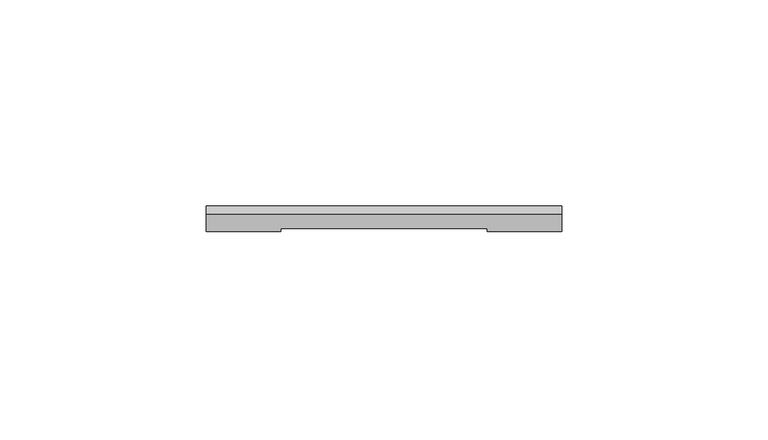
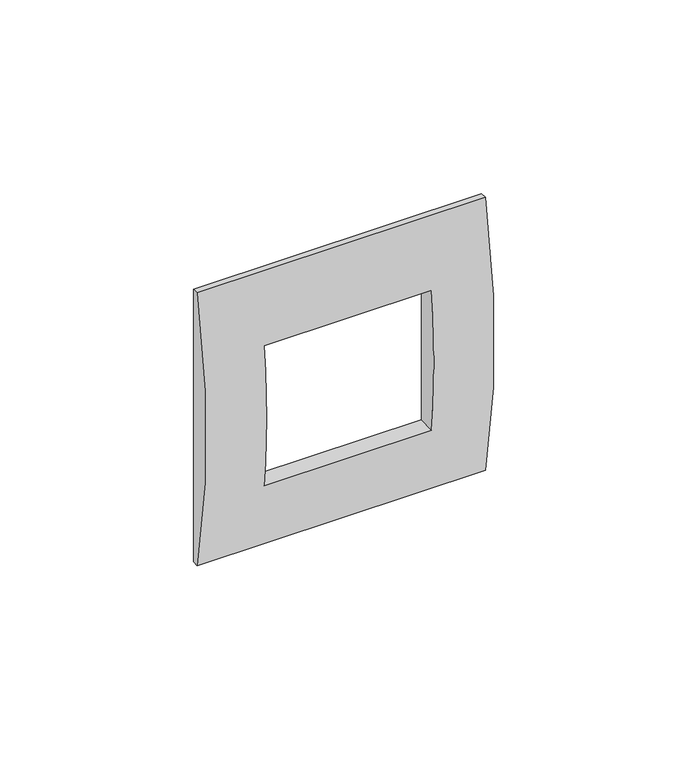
"""IFC4 building model written with IfcOpenShell, lengths in millimetres: proxy geometry, КНС_КаркасыВСбореСРамкамиViva_ILF_DKC : 2 модуля."""

from ifc_helpers import new_model, si_unit, frame, origin, place, context, project, spatial, circle_curve, source, transform, mapped, element, save
from ifc_brep_helpers import plane_surface, cylinder_surface, advanced_brep


def electrical_fixtures_e3511963(model_context):
    return source(origin(), model_context, "Body", "AdvancedBrep", [
        advanced_brep(
        [(43.0, -2.0, 43.0), (43.0, -2.0, -43.0), (43.0, 0.0, -43.0), (43.0, 0.0, 43.0), (-43.0, -2.0, 43.0), (-43.0, 0.0, 43.0), (-43.0, 0.0, -43.0), (-43.0, -2.0, -43.0), (25.0, -5.4051386, 22.0231857), (25.0, -5.4051386, -22.0231857), (-25.0, -5.4051386, -22.0231857), (-25.0, -5.4051386, 22.0231857), (25.0, 0.0, 22.0231857), (25.0, 0.0, -22.0231857), (-25.0, 0.0, -22.0231857), (-25.0, 0.0, 22.0231857)],
        [
            (0, 1, circle_curve(frame((43.0, 196.5799224, 0.0), z_axis=(1.0, 0.0, 0.0), x_axis=(0.0, 1.0, 0.0)), 203.1821487)),
            (1, 2),
            (2, 3),
            (3, 0),
            (4, 5),
            (5, 6),
            (6, 7),
            (7, 4, circle_curve(frame((-43.0, 196.5799224, 0.0), z_axis=(-1.0, 0.0, 0.0), x_axis=(0.0, 1.0, 0.0)), 203.1821487)),
            (0, 4),
            (7, 1),
            (8, 9, circle_curve(frame((25.0, 196.5799224, 0.0), z_axis=(1.0, 0.0, 0.0), x_axis=(0.0, 1.0, 0.0)), 203.1821487)),
            (9, 10),
            (10, 11, circle_curve(frame((-25.0, 196.5799224, 0.0), z_axis=(-1.0, 0.0, 0.0), x_axis=(0.0, 1.0, 0.0)), 203.1821487)),
            (11, 8),
            (6, 2),
            (3, 5),
            (8, 12),
            (12, 13),
            (13, 9),
            (10, 14),
            (14, 15),
            (15, 11),
            (15, 12),
            (13, 14),
        ],
        [
            plane_surface(frame((43.0, 399.7620711, 0.0), z_axis=(1.0, 0.0, 0.0), x_axis=(0.0, 0.0, 1.0))),
            plane_surface(frame((-43.0, 399.7620711, 0.0), z_axis=(-1.0, 0.0, 0.0), x_axis=(0.0, 0.0, -1.0))),
            cylinder_surface(frame((-43.0, 196.5799224, 0.0), z_axis=(1.0, 0.0, 0.0), x_axis=(0.0, 1.0, 0.0)), 203.1821487),
            plane_surface(frame((43.0, -2.0, -43.0), z_axis=(0.0, 0.0, -1.0), x_axis=(-1.0, 0.0, 0.0))),
            plane_surface(frame((43.0, 0.0, 43.0), z_axis=(0.0, 0.0, 1.0), x_axis=(-1.0, 0.0, 0.0))),
            plane_surface(frame((25.0, 399.7620711, 0.0), z_axis=(-1.0, 0.0, 0.0), x_axis=(0.0, 0.0, 1.0))),
            plane_surface(frame((-25.0, 399.7620711, 0.0), z_axis=(1.0, 0.0, 0.0), x_axis=(0.0, 0.0, -1.0))),
            plane_surface(frame((25.0, 0.0, 22.0231857), z_axis=(0.0, 0.0, -1.0), x_axis=(-1.0, 0.0, 0.0))),
            plane_surface(frame((25.0, -5.4051386, -22.0231857), z_axis=(0.0, 0.0, 1.0), x_axis=(-1.0, 0.0, 0.0))),
            plane_surface(frame((43.0, 0.0, -43.0), z_axis=(0.0, 1.0, 0.0), x_axis=(-1.0, 0.0, 0.0))),
        ],
        [
            (0, [[1, 2, 3, 4]]),
            (1, [[5, 6, 7, 8]]),
            (2, [[-1, 9, -8, 10], [11, 12, 13, 14]]),
            (3, [[-2, -10, -7, 15]]),
            (4, [[-4, 16, -5, -9]]),
            (5, [[17, 18, 19, -11]]),
            (6, [[20, 21, 22, -13]]),
            (7, [[-17, -14, -22, 23]]),
            (8, [[-19, 24, -20, -12]]),
            (9, [[-3, -15, -6, -16], [-18, -23, -21, -24]]),
        ],
    ),
    ])


if __name__ == "__main__":
    model = new_model("IFC4")
    model_context = context("Model", 3, world=origin())
    ifc_project = project(units=[si_unit("LENGTHUNIT", "METRE", prefix="MILLI")], contexts=[model_context])
    site = spatial("IfcSite", under=ifc_project)
    building = spatial("IfcBuilding", under=site)
    placement = place(None, origin())
    electrical_fixtures_shape = electrical_fixtures_e3511963(model_context)
    element("IfcBuildingElementProxy", 1, Name="КНС_КаркасыВСбореСРамкамиViva_ILF_DKC : 2 модуля", ObjectType="КНС_КаркасыВСбореСРамкамиViva_ILF_DKC : 2 модуля", at=placement, inside=building, context=model_context, shape_type="MappedRepresentation", body=[
        mapped(electrical_fixtures_shape, transform((0.0, 0.0, 0.0), x_axis=(1.0, 0.0, 0.0), y_axis=(0.0, 1.0, 0.0), z_axis=(0.0, 0.0, 1.0))),
    ])
    save(model, "model.ifc")
